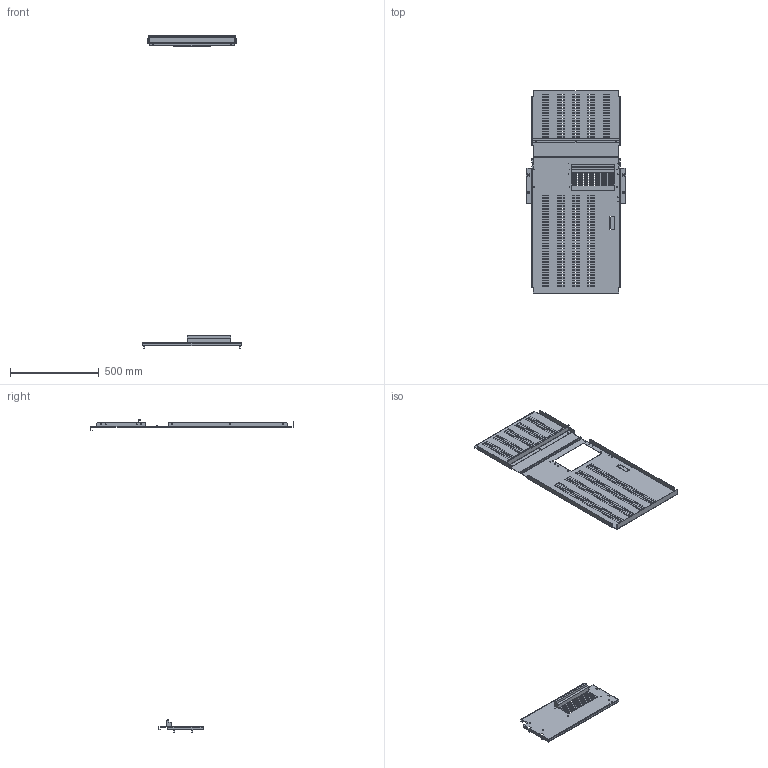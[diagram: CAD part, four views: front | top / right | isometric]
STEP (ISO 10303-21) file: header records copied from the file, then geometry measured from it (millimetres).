
FILE_DESCRIPTION(('CAx-IF Rec.Pracs.---Model Styling and Organization---1.2---2011-12-15','CAx-IF Rec.Pracs.---Geometric and Assembly Validation Properties---4.1---2014-06-16','CAx-IF Rec.Pracs.---PMI Polyline Presentation---2.0---2013-05-24'),'2;1');
FILE_NAME('R5M2UBFRNG12 (2200x600x(400+800)) (1).stp','2021-05-05T12:05:36+03:00',(''),(''),'STEP Interface 4.4 by CT CoreTechnologie','3D_Evolution4.4 by CT CoreTechnologie','');
FILE_SCHEMA(('AUTOMOTIVE_DESIGN { 1 0 10303 214 1 1 1 1 }'));
Length unit declared in the file: millimetre
Products named in the file (7): R5M2UBFRNG12 (2200õ600õ; M6x16-DIN 7985 ISR_stright; RB.0792.00.00.0_-00; RB.0834.00.00.1_-01; RB.0835.00.00.0_-00; RB.0839.00.00.0; RB.1735.00.00.0
Assembly tree (9 placements, depth 2):
  R5M2UBFRNG12 (2200õ600õ
    M6x16-DIN 7985 ISR_stright  x4
    RB.0792.00.00.0_-00
    RB.0834.00.00.1_-01
    RB.0835.00.00.0_-00
    RB.0839.00.00.0
    RB.1735.00.00.0
Bounding box: 559 x 1145.5 x 1763 mm (x, y, z)
Surface area: 1651316.6 mm2 (no closed solid volume)
Topology: 0 solids, 13 shells, 1469 faces, 4268 edges, 2813 vertices
Faces by surface type: plane 1300, cylinder 161, bspline 8
Entity records: 48976 total; most frequent: CARTESIAN_POINT 8814, ORIENTED_EDGE 8460, DIRECTION 7394, EDGE_CURVE 4232, VECTOR 3932, LINE 3932, VERTEX_POINT 2789, EDGE_LOOP 2077
